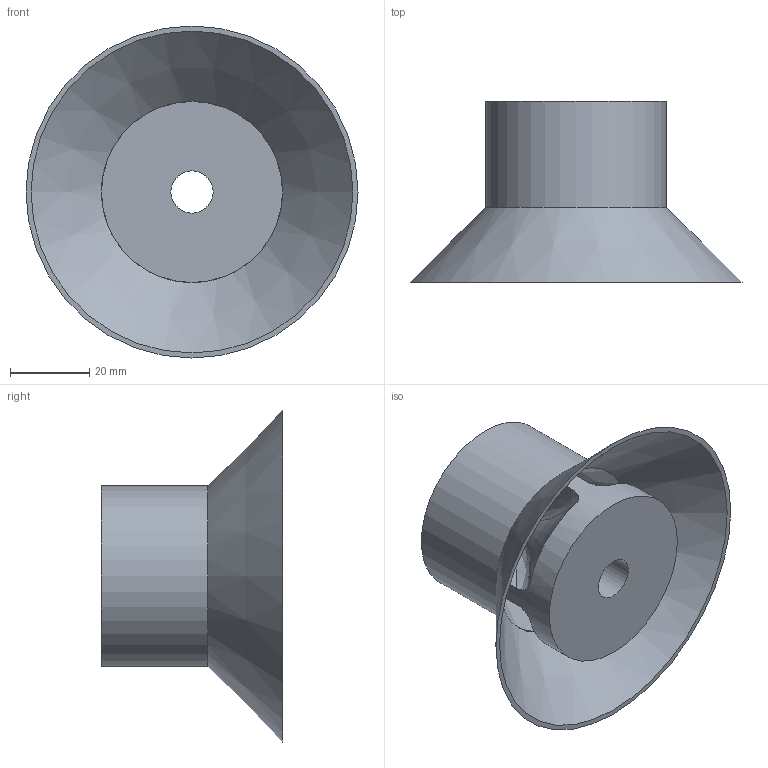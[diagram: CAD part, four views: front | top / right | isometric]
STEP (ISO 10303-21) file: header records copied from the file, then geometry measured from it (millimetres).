
FILE_DESCRIPTION(/* description */ (''),/* implementation_level */ '2;1');
FILE_NAME(/* name */ 'C:/Users/Owner/Desktop/KCAD 3Dp Fuel Filter Baffles Gen1/STEP Versions/1.8DIAx1.8 High Baffles STEP/1.8 Dia 42 CAL Baffle STEP.step',/* time_stamp */ '2019-06-09T15:49:31-04:00',/* author */ (''),/* organization */ (''),/* preprocessor_version */ 'ST-DEVELOPER v18',/* originating_system */ 'Autodesk Translation Framework v8.2.0.1029',/* authorisation */ '');
FILE_SCHEMA (('AUTOMOTIVE_DESIGN { 1 0 10303 214 3 1 1 }'));
Length unit declared in the file: inch
Products named in the file (1): baf 7 .40 cal
Bounding box: 83.82 x 45.72 x 83.82 mm (x, y, z)
Volume: 57582 mm3; surface area: 25842.4 mm2
Topology: 1 solids, 1 shells, 40 faces, 145 edges, 100 vertices
Faces by surface type: plane 15, bspline 13, cylinder 8, cone 2, torus 2
Full cylindrical faces by diameter (mm): 10.668 x2, 45.72 x2
Entity records: 2356 total; most frequent: CARTESIAN_POINT 1229, ORIENTED_EDGE 290, DIRECTION 158, EDGE_CURVE 145, VERTEX_POINT 100, B_SPLINE_CURVE_WITH_KNOTS 70, AXIS2_PLACEMENT_3D 64, EDGE_LOOP 43
